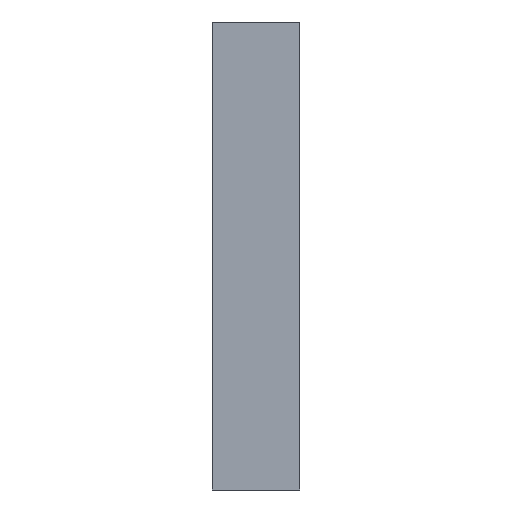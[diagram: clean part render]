
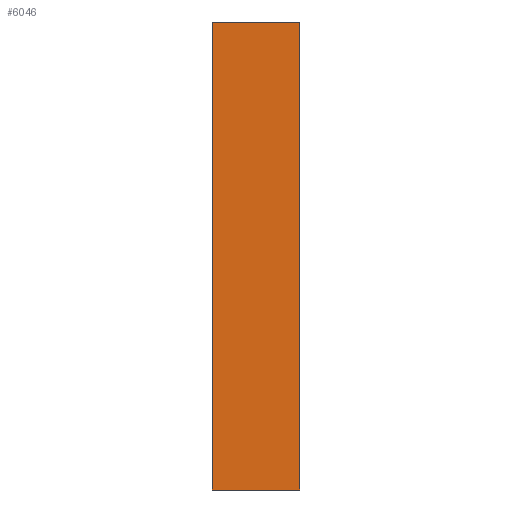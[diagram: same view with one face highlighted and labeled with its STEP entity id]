
A CAD part, left-side view. The second image highlights one B-rep face of the part: STEP entity #6046.
In plain terms, the highlighted planar face has unit normal (-1, 0, 0).
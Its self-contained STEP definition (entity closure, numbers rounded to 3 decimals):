
#264 = PLANE ( 'NONE',  #9165 ) ;
#596 = EDGE_CURVE ( 'NONE', #6541, #5950, #4432, .T. ) ;
#651 = ORIENTED_EDGE ( 'NONE', *, *, #6054, .F. ) ;
#1253 = ORIENTED_EDGE ( 'NONE', *, *, #9977, .T. ) ;
#2321 = LINE ( 'NONE', #8999, #11735 ) ;
#2412 = CARTESIAN_POINT ( 'NONE',  ( -87.163, 12.051, 25.975 ) ) ;
#2906 = DIRECTION ( 'NONE',  ( 0., -1., 0. ) ) ;
#3062 = FACE_OUTER_BOUND ( 'NONE', #4916, .T. ) ;
#3486 = DIRECTION ( 'NONE',  ( 0., 0., -1. ) ) ;
#3724 = LINE ( 'NONE', #11286, #4936 ) ;
#4432 = LINE ( 'NONE', #2412, #10091 ) ;
#4794 = DIRECTION ( 'NONE',  ( 1., 0., 0. ) ) ;
#4916 = EDGE_LOOP ( 'NONE', ( #1253, #7923, #651, #9154 ) ) ;
#4936 = VECTOR ( 'NONE', #3486, 1000. ) ;
#5173 = EDGE_CURVE ( 'NONE', #5961, #8840, #3724, .T. ) ;
#5950 = VERTEX_POINT ( 'NONE', #10199 ) ;
#5961 = VERTEX_POINT ( 'NONE', #8380 ) ;
#6046 = ADVANCED_FACE ( 'NONE', ( #3062 ), #264, .F. ) ;
#6054 = EDGE_CURVE ( 'NONE', #6541, #5961, #2321, .T. ) ;
#6541 = VERTEX_POINT ( 'NONE', #11450 ) ;
#6571 = CARTESIAN_POINT ( 'NONE',  ( -87.163, 2.526, -24.825 ) ) ;
#6780 = CARTESIAN_POINT ( 'NONE',  ( -87.163, 2.526, 25.975 ) ) ;
#7307 = CARTESIAN_POINT ( 'NONE',  ( -87.163, 2.526, -24.825 ) ) ;
#7923 = ORIENTED_EDGE ( 'NONE', *, *, #5173, .F. ) ;
#8220 = DIRECTION ( 'NONE',  ( 0., 0., -1. ) ) ;
#8380 = CARTESIAN_POINT ( 'NONE',  ( -87.163, 2.526, 25.975 ) ) ;
#8840 = VERTEX_POINT ( 'NONE', #7307 ) ;
#8999 = CARTESIAN_POINT ( 'NONE',  ( -87.163, 2.526, 25.975 ) ) ;
#9154 = ORIENTED_EDGE ( 'NONE', *, *, #596, .T. ) ;
#9165 = AXIS2_PLACEMENT_3D ( 'NONE', #6780, #4794, #9648 ) ;
#9494 = LINE ( 'NONE', #6571, #11836 ) ;
#9648 = DIRECTION ( 'NONE',  ( 0., 1., 0. ) ) ;
#9977 = EDGE_CURVE ( 'NONE', #5950, #8840, #9494, .T. ) ;
#10091 = VECTOR ( 'NONE', #8220, 1000. ) ;
#10199 = CARTESIAN_POINT ( 'NONE',  ( -87.163, 12.051, -24.825 ) ) ;
#11286 = CARTESIAN_POINT ( 'NONE',  ( -87.163, 2.526, 25.975 ) ) ;
#11450 = CARTESIAN_POINT ( 'NONE',  ( -87.163, 12.051, 25.975 ) ) ;
#11735 = VECTOR ( 'NONE', #11981, 1000. ) ;
#11836 = VECTOR ( 'NONE', #2906, 1000. ) ;
#11981 = DIRECTION ( 'NONE',  ( 0., -1., 0. ) ) ;
